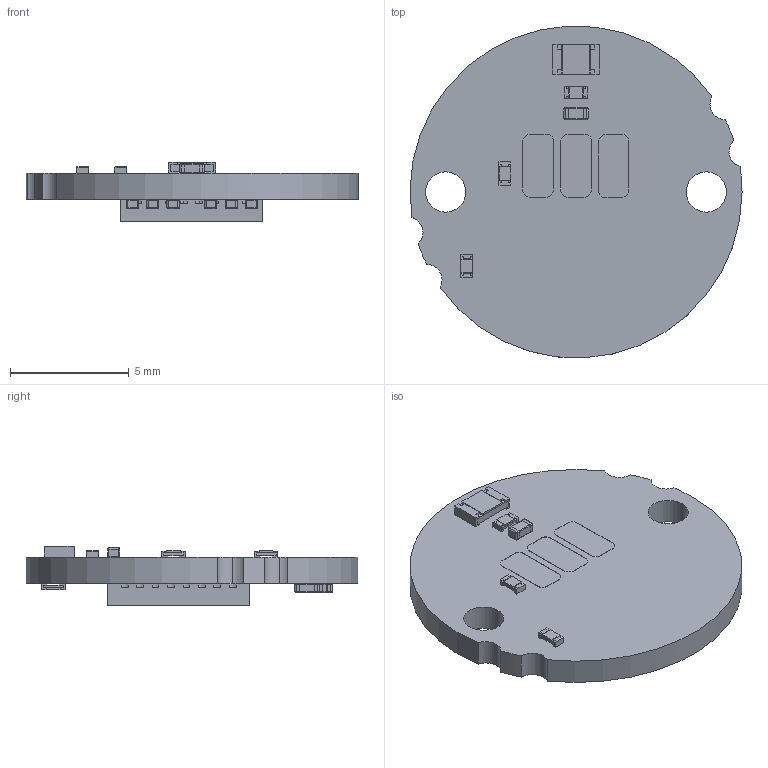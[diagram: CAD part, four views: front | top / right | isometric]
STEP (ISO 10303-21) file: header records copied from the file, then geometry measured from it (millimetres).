
FILE_DESCRIPTION (( 'STEP AP214' ), '1' );
FILE_NAME ('MODM436_dodelan.step', '2024-01-10T09:11:43', ( '' ), ( '' ), 'SwSTEP 2.0', 'SolidWorks 2022', '' );
FILE_SCHEMA (( 'AUTOMOTIVE_DESIGN' ));
Length unit declared in the file: millimetre
Products named in the file (1): MODM436_dodelan
Bounding box: 14 x 13.98 x 2.52 mm (x, y, z)
Volume: 201.2 mm3; surface area: 513.2 mm2
Topology: 32 solids, 32 shells, 941 faces, 2444 edges, 1520 vertices
Faces by surface type: plane 686, cylinder 199, bspline 56
Entity records: 40128 total; most frequent: CARTESIAN_POINT 7146, ORIENTED_EDGE 4776, DIRECTION 4222, EDGE_CURVE 2388, LINE 1990, VECTOR 1990, VERTEX_POINT 1520, AXIS2_PLACEMENT_3D 1116
